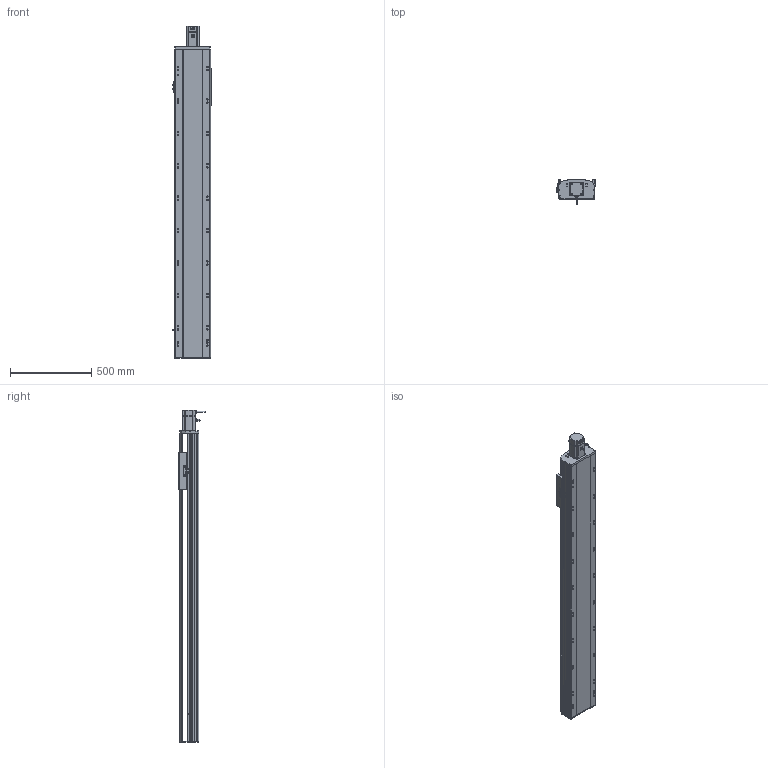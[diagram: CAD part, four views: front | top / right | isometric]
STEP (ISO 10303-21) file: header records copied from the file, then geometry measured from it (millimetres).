
FILE_DESCRIPTION (( 'STEP AP214' ), '1' );
FILE_NAME ('RTH22-XX-1500-E-M75-C4.STEP', '2025-10-24T10:50:27', ( 'Microsoft' ), ( 'Microsoft' ), 'SwSTEP 2.0', 'SolidWorks 2018', '' );
FILE_SCHEMA (( 'AUTOMOTIVE_DESIGN' ));
Length unit declared in the file: millimetre
Products named in the file (9): N_750W萇儂^RTH22-XX-XX-E-M75-C4; N_RTH22-E-008萇儂啣^RTH22-XX-XX-E-M75-C4; N_RTH22-E-011菁釱^RTH22-XX-XX-E-M75-C4; N_RTH22-E-007奻裔^RTH22-XX-XX-E-M75-C4; RTH22-XX-1500-E-M75-C4; N_RTH22-GY-013外置感应片^RTH22-XX-XX-E-M75-C4; N_OMRON EE-SX672 传感器^RTH22-XX-XX-E-M75-C4; N_RTH22-GY-001耜裔^RTH22-XX-XX-E-M75-C4; N_RTH22-E-004-SFS25賑釱^RTH22-XX-XX-E-M75-C4
Assembly tree (10 placements, depth 2):
  RTH22-XX-1500-E-M75-C4
    N_RTH22-E-011菁釱^RTH22-XX-XX-E-M75-C4
    N_RTH22-GY-001耜裔^RTH22-XX-XX-E-M75-C4
    N_RTH22-E-008萇儂啣^RTH22-XX-XX-E-M75-C4
    N_RTH22-E-007奻裔^RTH22-XX-XX-E-M75-C4
    N_RTH22-GY-013外置感应片^RTH22-XX-XX-E-M75-C4
    N_RTH22-E-004-SFS25賑釱^RTH22-XX-XX-E-M75-C4
    N_750W萇儂^RTH22-XX-XX-E-M75-C4
    N_OMRON EE-SX672 传感器^RTH22-XX-XX-E-M75-C4  x3
Bounding box: 238.5 x 160.7 x 2049 mm (x, y, z)
Volume: 25274239 mm3; surface area: 2587161.7 mm2
Topology: 10 solids, 10 shells, 1595 faces, 4374 edges, 2819 vertices
Faces by surface type: plane 762, cylinder 484, bspline 279, cone 70
Entity records: 40633 total; most frequent: CARTESIAN_POINT 12617, ORIENTED_EDGE 5700, DIRECTION 5416, EDGE_CURVE 2850, VERTEX_POINT 1855, AXIS2_PLACEMENT_3D 1850, LINE 1716, VECTOR 1716
